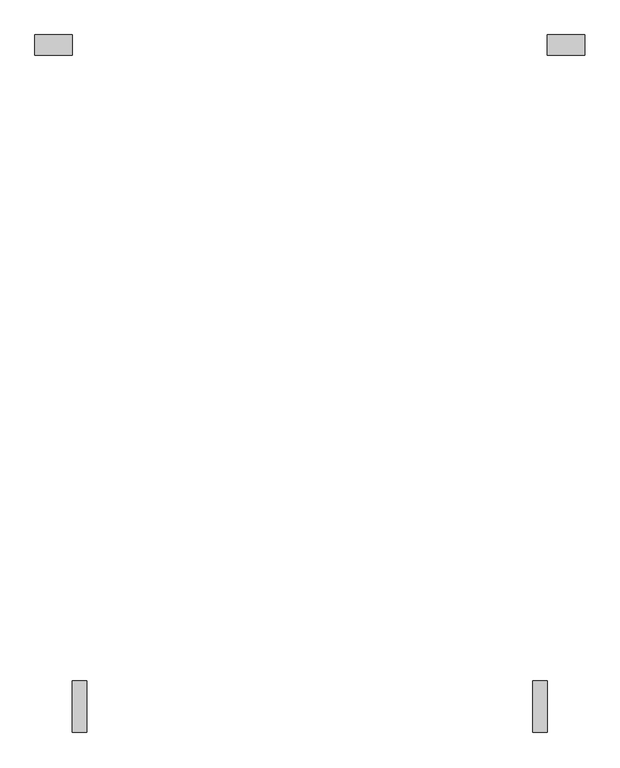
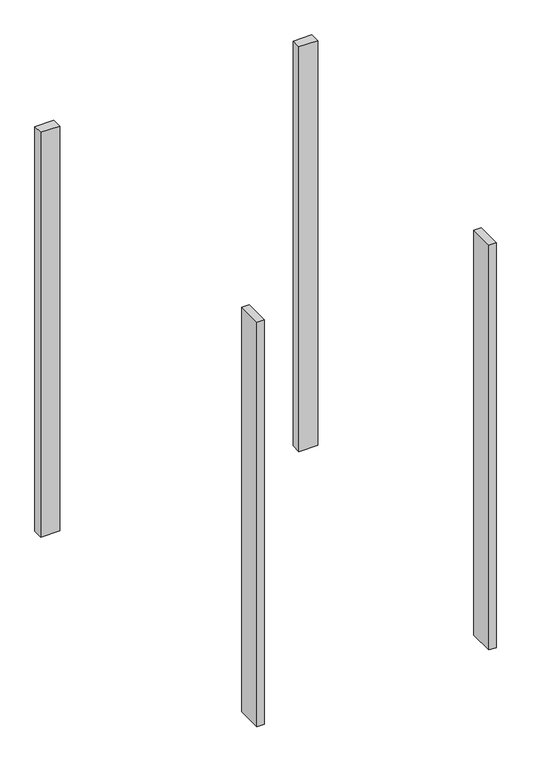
"""IFC4 building model written with IfcOpenShell, lengths in millimetres: proxy geometry, Витраж : Витраж."""

from ifc_helpers import new_model, si_unit, origin, origin_with_axes, place, context, project, spatial, polyline, outline, extrude, source, transform, mapped, element, save


def entourage_e203a073(model_context):
    return source(origin(), model_context, "Body", "SweptSolid", [
        extrude(outline(polyline([(7575.1019042, 1820.3517467), (7575.1019042, 2000.3002517), (7625.0175397, 2000.3002517), (7625.0175397, 1820.3517467), (7575.1019042, 1820.3517467)])), origin_with_axes(), (0.0, 0.0, 1.0), 2950.0),
        extrude(outline(polyline([(9225.1019042, 1820.3517467), (9175.0630762, 1820.3517467), (9175.0630762, 2000.2487567), (9225.1019042, 2000.2487567), (9225.1019042, 1820.3517467)])), origin_with_axes(), (0.0, 0.0, 1.0), 2950.0),
        extrude(outline(polyline([(7575.1019042, 4245.2487567), (7575.1019042, 4175.3002517), (7445.0, 4175.3002517), (7445.0, 4245.2487567), (7575.1019042, 4245.2487567)])), origin_with_axes(), (0.0, 0.0, 1.0), 2950.0),
        extrude(outline(polyline([(9355.0, 4245.2487567), (9355.0, 4175.2487567), (9225.1019042, 4175.2487567), (9225.1019042, 4245.2487567), (9355.0, 4245.2487567)])), origin_with_axes(), (0.0, 0.0, 1.0), 2950.0),
    ])


if __name__ == "__main__":
    model = new_model("IFC4")
    model_context = context("Model", 3, world=origin())
    ifc_project = project(units=[si_unit("LENGTHUNIT", "METRE", prefix="MILLI")], contexts=[model_context])
    site = spatial("IfcSite", under=ifc_project)
    building = spatial("IfcBuilding", under=site)
    placement = place(None, origin())
    entourage_shape = entourage_e203a073(model_context)
    element("IfcBuildingElementProxy", 1, Name="Витраж : Витраж", ObjectType="Витраж : Витраж", at=placement, inside=building, context=model_context, shape_type="MappedRepresentation", body=[
        mapped(entourage_shape, transform((0.0, 0.0, 0.0), x_axis=(1.0, 0.0, 0.0), y_axis=(0.0, 1.0, 0.0), z_axis=(0.0, 0.0, 1.0))),
    ])
    save(model, "model.ifc")
